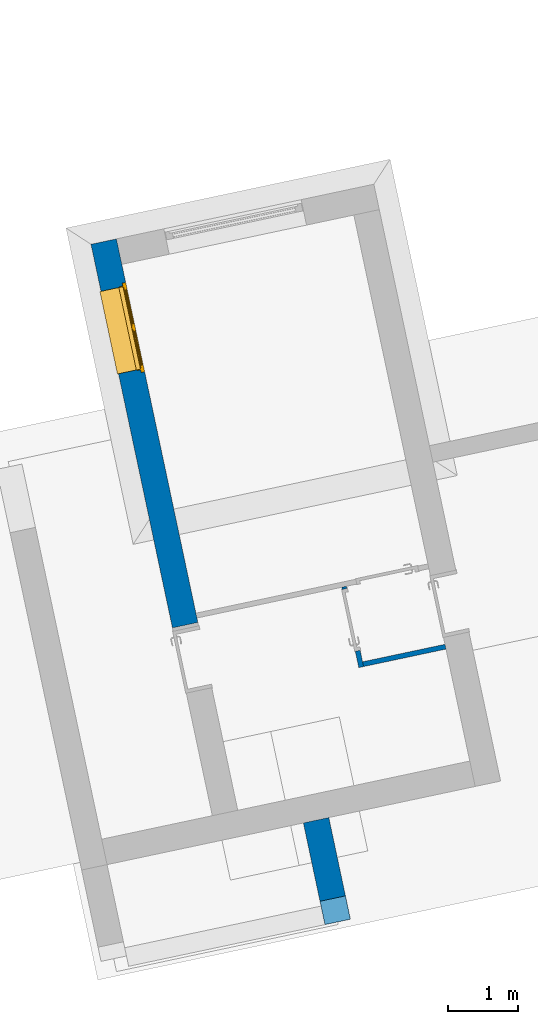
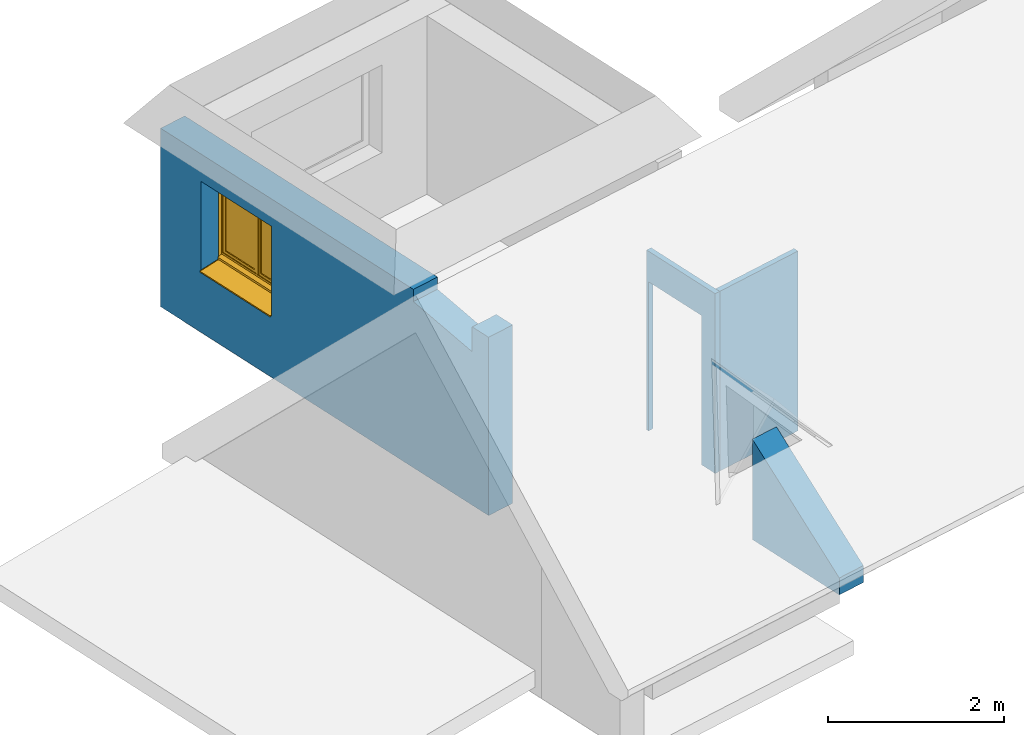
# One storey, part 4 of 10: 4 walls, 1 window, 2 openings.
"""IFC2X3 building model written with IfcOpenShell, lengths in centimetres."""

from ifc_helpers import new_model, entity, si_unit, converted_unit, derived_unit, direction, frame, frame_2d, origin, place, context, subcontext, project, spatial, polyline, rectangle, extrude, clip, halfspace, bounded_halfspace, faceted_brep, source, transform, mapped, material, material_list, layer, layer_set, layer_usage, type_object, type_shapes, element, fill, save


model = new_model("IFC2X3")

# Units and contexts
model_context = context("Model", 3, precision=0.001, world=origin(), true_north=direction((6.12303176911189e-17, 1.0)))
body_context = subcontext(model_context, "Body", "Model", "MODEL_VIEW")
ifc_project = project(units=[si_unit("LENGTHUNIT", "METRE", prefix="CENTI"), si_unit("AREAUNIT", "SQUARE_METRE"), si_unit("VOLUMEUNIT", "CUBIC_METRE"), converted_unit("PLANEANGLEUNIT", "DEGREE", entity("IfcRatioMeasure", 0.0174532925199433), si_unit("PLANEANGLEUNIT", "RADIAN"), dimensions=[0, 0, 0, 0, 0, 0, 0]), si_unit("MASSUNIT", "GRAM", prefix="KILO"), derived_unit("MASSDENSITYUNIT", [(si_unit("MASSUNIT", "GRAM", prefix="KILO"), 1), (si_unit("LENGTHUNIT", "METRE"), -3)]), derived_unit("IONCONCENTRATIONUNIT", [(si_unit("MASSUNIT", "GRAM", prefix="KILO"), 1), (si_unit("LENGTHUNIT", "METRE"), -3)]), derived_unit("MOMENTOFINERTIAUNIT", [(si_unit("LENGTHUNIT", "METRE"), 4)]), si_unit("TIMEUNIT", "SECOND"), si_unit("FREQUENCYUNIT", "HERTZ"), si_unit("THERMODYNAMICTEMPERATUREUNIT", "DEGREE_CELSIUS"), derived_unit("THERMALTRANSMITTANCEUNIT", [(si_unit("MASSUNIT", "GRAM", prefix="KILO"), 1), (si_unit("THERMODYNAMICTEMPERATUREUNIT", "KELVIN"), -1), (si_unit("TIMEUNIT", "SECOND"), -3)]), derived_unit("THERMALCONDUCTANCEUNIT", [(si_unit("MASSUNIT", "GRAM", prefix="KILO"), 1), (si_unit("THERMODYNAMICTEMPERATUREUNIT", "KELVIN"), -1), (si_unit("TIMEUNIT", "SECOND"), -3), (si_unit("LENGTHUNIT", "METRE"), 1)]), derived_unit("VOLUMETRICFLOWRATEUNIT", [(si_unit("LENGTHUNIT", "METRE"), 3), (si_unit("TIMEUNIT", "SECOND"), -1)]), derived_unit("MASSFLOWRATEUNIT", [(si_unit("MASSUNIT", "GRAM", prefix="KILO"), 1), (si_unit("TIMEUNIT", "SECOND"), -1)]), derived_unit("ROTATIONALFREQUENCYUNIT", [(si_unit("TIMEUNIT", "SECOND"), -1)]), si_unit("ELECTRICCURRENTUNIT", "AMPERE"), si_unit("ELECTRICVOLTAGEUNIT", "VOLT"), si_unit("POWERUNIT", "WATT"), si_unit("FORCEUNIT", "NEWTON", prefix="KILO"), si_unit("ILLUMINANCEUNIT", "LUX"), si_unit("LUMINOUSFLUXUNIT", "LUMEN"), si_unit("LUMINOUSINTENSITYUNIT", "CANDELA"), derived_unit("USERDEFINED", [(si_unit("MASSUNIT", "GRAM", prefix="KILO"), -1), (si_unit("LENGTHUNIT", "METRE"), -2), (si_unit("TIMEUNIT", "SECOND"), 3), (si_unit("LUMINOUSFLUXUNIT", "LUMEN"), 1)]), derived_unit("USERDEFINED", [(si_unit("MASSUNIT", "GRAM", prefix="KILO"), 1), (si_unit("TIMEUNIT", "SECOND"), -3), (si_unit("LENGTHUNIT", "METRE"), 3), (si_unit("ELECTRICCURRENTUNIT", "AMPERE"), -2)]), derived_unit("SOUNDPOWERUNIT", [(si_unit("MASSUNIT", "GRAM", prefix="KILO"), 1), (si_unit("TIMEUNIT", "SECOND"), -3), (si_unit("LENGTHUNIT", "METRE"), 2)]), derived_unit("SOUNDPRESSUREUNIT", [(si_unit("MASSUNIT", "GRAM", prefix="KILO"), 1), (si_unit("LENGTHUNIT", "METRE"), -1), (si_unit("TIMEUNIT", "SECOND"), -2)]), derived_unit("LINEARVELOCITYUNIT", [(si_unit("LENGTHUNIT", "METRE"), 1), (si_unit("TIMEUNIT", "SECOND"), -1)]), si_unit("PRESSUREUNIT", "PASCAL"), derived_unit("USERDEFINED", [(si_unit("MASSUNIT", "GRAM", prefix="KILO"), 1), (si_unit("LENGTHUNIT", "METRE"), -2), (si_unit("TIMEUNIT", "SECOND"), -2)]), derived_unit("LINEARFORCEUNIT", [(si_unit("MASSUNIT", "GRAM", prefix="KILO"), 1), (si_unit("TIMEUNIT", "SECOND"), -2)]), derived_unit("PLANARFORCEUNIT", [(si_unit("MASSUNIT", "GRAM", prefix="KILO"), 1), (si_unit("LENGTHUNIT", "METRE"), -1), (si_unit("TIMEUNIT", "SECOND"), -2)]), derived_unit("SPECIFICHEATCAPACITYUNIT", [(si_unit("THERMODYNAMICTEMPERATUREUNIT", "KELVIN"), -1), (si_unit("LENGTHUNIT", "METRE"), 2), (si_unit("TIMEUNIT", "SECOND"), -2)]), derived_unit("HEATINGVALUEUNIT", [(si_unit("LENGTHUNIT", "METRE"), 2), (si_unit("TIMEUNIT", "SECOND"), -2)]), derived_unit("VAPORPERMEABILITYUNIT", [(si_unit("LENGTHUNIT", "METRE"), -1), (si_unit("TIMEUNIT", "SECOND"), 1)]), derived_unit("DYNAMICVISCOSITYUNIT", [(si_unit("MASSUNIT", "GRAM", prefix="KILO"), 1), (si_unit("TIMEUNIT", "SECOND"), -1), (si_unit("LENGTHUNIT", "METRE"), -1)]), derived_unit("THERMALEXPANSIONCOEFFICIENTUNIT", [(si_unit("THERMODYNAMICTEMPERATUREUNIT", "KELVIN"), -1)]), derived_unit("MODULUSOFELASTICITYUNIT", [(si_unit("MASSUNIT", "GRAM", prefix="KILO"), 1), (si_unit("LENGTHUNIT", "METRE"), -1), (si_unit("TIMEUNIT", "SECOND"), -2)]), derived_unit("ISOTHERMALMOISTURECAPACITYUNIT", [(si_unit("LENGTHUNIT", "METRE"), 3), (si_unit("MASSUNIT", "GRAM", prefix="KILO"), -1)]), derived_unit("MOISTUREDIFFUSIVITYUNIT", [(si_unit("TIMEUNIT", "SECOND"), -1), (si_unit("LENGTHUNIT", "METRE"), 2)])], contexts=[model_context])

# Site, building, storey
site_placement = place(None, frame((14083.8920177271, -6853.25409548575, 6900.0), z_axis=(0.0, 0.0, 1.0), x_axis=(0.978188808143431, 0.207717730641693, 0.0)))
site = spatial("IfcSite", under=ifc_project, at=site_placement, Name="Surface", CompositionType="ELEMENT")
building_placement = place(site_placement, origin())
building = spatial("IfcBuilding", under=site, at=building_placement, CompositionType="ELEMENT")
storey_placement = place(building_placement, frame((0.0, 0.0, 289.0)))
storey = spatial("IfcBuildingStorey", under=building, at=storey_placement, Name="_R+1", CompositionType="ELEMENT", Elevation=289.0)

# Wall, opening, window
ifc_material_1 = material(Name="__ ENDUIT_Blanc")
ifc_layer_1 = layer(ifc_material_1, 2.0)
ifc_material_2 = material(Name="__ BETON_parpaings")
ifc_layer_2 = layer(ifc_material_2, 20.0)
ifc_material_3 = material(Name="__ ISOLANT (pat 1)")
ifc_layer_3 = layer(ifc_material_3, 13.0)
ifc_layer_4 = layer(ifc_material_1, 2.0)
ifc_layer_set_1 = layer_set([ifc_layer_1, ifc_layer_2, ifc_layer_3, ifc_layer_4], Name="Mur de base:*BRIQUE 37 (20 +INT 13+2 + EXT 2) (Iso+BA13)(enduit)")
ifc_layer_usage_1 = layer_usage(ifc_layer_set_1, "AXIS2", "NEGATIVE", 18.5)
wall_type_1 = type_object("IfcWallType", Name="Mur de base:*BRIQUE 37 (20 +INT 13+2 + EXT 2) (Iso+BA13)(enduit)", PredefinedType="STANDARD", material=ifc_layer_set_1)
wall_1_placement = place(storey_placement, frame((-7520.29714756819, 15156.1673447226, 0.0), z_axis=(0.0, 0.0, 1.0), x_axis=(0.0, 1.0, 0.0)))
wall_1 = element("IfcWallStandardCase", 1, at=wall_1_placement, inside=storey, type_object=wall_type_1, material=ifc_layer_usage_1, Name="Mur de base:*BRIQUE 37 (20 +INT 13+2 + EXT 2) (Iso+BA13)(enduit)", ObjectType="Mur de base:*BRIQUE 37 (20 +INT 13+2 + EXT 2) (Iso+BA13)(enduit)", context=body_context, shape_type="Clipping", body=[
    clip(extrude(rectangle(XDim=558.500000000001, YDim=37.0000000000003, at=frame_2d((279.250000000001, 1.77635683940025e-14), x_axis=(-1.0, 0.0))), origin(), (0.0, 0.0, 1.0), 247.999999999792), bounded_halfspace(frame((28.0, -18.4999999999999, 213.367301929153), z_axis=(-0.173648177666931, 0.0, 0.984807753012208), x_axis=(0.0, -1.0, 0.0)), False, frame((28.0, -18.4999999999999, 213.367301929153)), polyline([(0.0, 0.0), (100.0, 0.0), (100.0, 37.0), (0.0, 37.0), (0.0, 0.0)]))),
])
opening_1_placement = place(wall_1_placement, frame((365.0, 50.0, 82.1411937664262), z_axis=(0.0, 0.0, 1.0), x_axis=(0.0, -1.0, 0.0)))
opening_1 = element("IfcOpeningElement", 2, at=opening_1_placement, cuts=wall_1, Name="Mur de base:*BRIQUE 37 (20 +INT 13+2 + EXT 2) (Iso+BA13)(enduit)", ObjectType="Opening", context=body_context, shape_type="Brep", body=[
    faceted_brep([(60.5000000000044, 5.0, 7.85880623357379), (58.4999999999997, 5.0, 7.85880623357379), (58.4999999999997, 5.0, 127.858806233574), (0.0, 5.0, 127.858806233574), (0.0, 5.0, 0.0), (60.5000000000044, 5.0, 6.35880623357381), (100.0, 125.0, 7.85880623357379), (68.5, 125.0, 7.85880623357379), (68.5, 125.0, 127.858806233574), (100.0, 125.0, 127.858806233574), (100.0, 5.0, 7.85880623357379), (68.5, 5.0, 7.85880623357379), (68.5, 0.0, 7.85880623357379), (63.5000000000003, 0.0, 7.85880623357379), (63.5000000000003, 4.0, 7.85880623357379), (58.4999999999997, 4.0, 7.85880623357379), (60.5000000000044, 125.0, 7.85880623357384), (58.4999999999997, 125.0, 7.85880623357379), (58.4999999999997, 126.0, 7.85880623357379), (63.5000000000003, 126.0, 7.85880623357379), (63.5000000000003, 130.0, 7.85880623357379), (68.5, 130.0, 7.85880623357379), (100.0, 5.0, 127.858806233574), (58.4999999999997, 125.0, 127.858806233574), (0.0, 125.0, 127.858806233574), (0.0, 125.0, 0.0), (60.5000000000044, 125.0, 6.35880623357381), (68.5, 0.0, 132.858806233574), (63.5000000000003, 0.0, 132.858806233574), (63.5000000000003, 130.0, 132.858806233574), (63.5000000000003, 126.0, 128.858806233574), (63.5000000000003, 4.0, 128.858806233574), (58.4999999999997, 4.0, 128.858806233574), (58.4999999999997, 126.0, 128.858806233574), (68.5, 5.0, 127.858806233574), (68.5, 130.0, 132.858806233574)], [[[0, 1, 2, 3, 4, 5]], [[6, 7, 8, 9]], [[10, 11, 12, 13, 14, 15, 1, 0, 16, 17, 18, 19, 20, 21, 7, 6]], [[10, 6, 9, 22]], [[3, 2, 23, 24]], [[3, 24, 25, 4]], [[4, 25, 26, 5]], [[5, 26, 16, 0]], [[12, 27, 28, 13]], [[13, 28, 29, 20, 19, 30, 31, 14]], [[14, 31, 32, 15]], [[15, 32, 33, 18, 17, 23, 2, 1]], [[11, 34, 8, 7, 21, 35, 27, 12]], [[27, 35, 29, 28]], [[30, 33, 32, 31]], [[29, 35, 21, 20]], [[19, 18, 33, 30]], [[9, 8, 34, 22]], [[24, 23, 17, 16, 26, 25]], [[22, 34, 11, 10]]]),
])
ifc_material_4 = material(Name="Fenêtre - Poignée")
ifc_material_5 = material(Name="Fenêtre - Appui")
ifc_material_6 = material(Name="Fenêtre - Cadre")
ifc_material_7 = material(Name="Fenêtre - Vitrage")
ifc_material_list = material_list([ifc_material_4, ifc_material_5, ifc_material_6, ifc_material_7])
window_style = type_object("IfcWindowStyle", Name="2 Vantaux - Droits:120x120", ConstructionType="NOTDEFINED", OperationType="DOUBLE_PANEL_VERTICAL", ParameterTakesPrecedence=False, Sizeable=False, material=ifc_material_list)
shared_shape = source(origin(), body_context, "Body", "Brep", [
    faceted_brep([(68.0646009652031, -69.100000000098, 70.0621991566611), (68.2033929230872, -69.100000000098, 69.9234071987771), (68.2033929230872, -69.100000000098, 68.7920363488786), (68.0667698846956, -69.100000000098, 68.655413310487), (66.9332301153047, -69.100000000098, 68.655413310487), (66.7966070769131, -69.100000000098, 68.7920363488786), (66.7966070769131, -69.100000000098, 69.9234071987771), (66.9353990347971, -69.100000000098, 70.0621991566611), (68.0646009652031, -70.3913548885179, 70.0621991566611), (68.2033929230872, -70.333865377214, 69.9234071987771), (68.2033929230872, -71.664600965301, 68.5926716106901), (68.2033929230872, -71.664600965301, 59.8588062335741), (68.2033929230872, -70.5332301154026, 59.8588062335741), (68.2033929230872, -70.5332301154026, 68.1240424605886), (68.2033929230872, -69.8652362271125, 68.7920363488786), (68.0667698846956, -69.8086451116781, 68.655413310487), (66.9332301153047, -69.8086451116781, 68.655413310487), (66.7966070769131, -69.8652362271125, 68.7920363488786), (66.7966070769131, -70.5332301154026, 68.1240424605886), (66.7966070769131, -70.5332301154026, 59.8588062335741), (66.7966070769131, -71.664600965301, 59.8588062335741), (66.7966070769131, -71.664600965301, 68.5926716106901), (66.7966070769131, -70.333865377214, 69.9234071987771), (66.9353990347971, -70.3913548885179, 70.0621991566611), (68.0646009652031, -71.8033929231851, 68.650161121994), (68.0667698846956, -70.396607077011, 68.0674513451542), (66.9332301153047, -70.396607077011, 68.0674513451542), (66.9353990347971, -71.803392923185, 68.650161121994), (68.0646009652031, -71.8033929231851, 59.8588062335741), (66.9353990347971, -71.8033929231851, 59.8588062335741), (66.9332301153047, -70.396607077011, 59.8588062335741), (68.0667698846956, -70.396607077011, 59.8588062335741)], [[[0, 1, 2, 3, 4, 5, 6, 7]], [[1, 0, 8, 9]], [[2, 1, 9, 10, 11, 12, 13, 14]], [[3, 2, 14, 15]], [[4, 3, 15, 16]], [[5, 4, 16, 17]], [[6, 5, 17, 18, 19, 20, 21, 22]], [[7, 6, 22, 23]], [[0, 7, 23, 8]], [[9, 8, 24, 10]], [[15, 14, 13, 25]], [[16, 15, 25, 26]], [[17, 16, 26, 18]], [[23, 22, 21, 27]], [[8, 23, 27, 24]], [[28, 29, 20, 19, 30, 31, 12, 11]], [[10, 24, 28, 11]], [[25, 13, 12, 31]], [[26, 25, 31, 30]], [[18, 26, 30, 19]], [[27, 21, 20, 29]], [[24, 27, 29, 28]]]),
    faceted_brep([(68.2000000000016, -69.1000000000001, 71.8588062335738), (66.8, -69.1000000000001, 71.8588062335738), (66.3, -69.1000000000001, 71.3588062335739), (66.3, -69.1000000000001, 64.3588062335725), (66.7999999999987, -69.1000000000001, 63.8588062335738), (68.2000000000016, -69.1000000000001, 63.8588062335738), (68.7000000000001, -69.1000000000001, 64.3588062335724), (68.7000000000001, -69.1000000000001, 71.3588062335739), (68.2000000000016, -68.5000000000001, 71.8588062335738), (68.7000000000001, -68.5000000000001, 71.3588062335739), (68.7000000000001, -68.5000000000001, 64.3588062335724), (68.2000000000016, -68.5000000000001, 63.8588062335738), (66.7999999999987, -68.5000000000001, 63.8588062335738), (66.3, -68.5000000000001, 64.3588062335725), (66.3, -68.5000000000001, 71.3588062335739), (66.8, -68.5000000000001, 71.8588062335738)], [[[0, 1, 2, 3, 4, 5, 6, 7]], [[8, 9, 10, 11, 12, 13, 14, 15]], [[1, 0, 8, 15]], [[2, 1, 15, 14]], [[3, 2, 14, 13]], [[4, 3, 13, 12]], [[5, 4, 12, 11]], [[6, 5, 11, 10]], [[7, 6, 10, 9]], [[0, 7, 9, 8]]]),
    faceted_brep([(125.0, -30.0, 3.67864823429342), (125.0, -60.0, 6.83177529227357), (125.0, -60.0, 7.85880623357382), (125.0, -60.4999999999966, 7.85880623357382), (125.0, -60.4999999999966, 6.35880623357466), (125.0, -30.4999999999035, 3.2056791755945), (125.0, -30.4999999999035, 2.17562870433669), (125.0, -30.0, 2.12307658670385), (5.0, -30.0, 3.67864823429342), (5.0, -30.0, 2.12307658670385), (5.0, -30.4999999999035, 2.17562870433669), (5.0, -30.4999999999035, 3.2056791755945), (5.0, -60.4999999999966, 6.35880623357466), (5.0, -60.4999999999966, 7.85880623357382), (5.0, -60.0, 7.85880623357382), (5.0, -60.0, 6.83177529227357)], [[[0, 1, 2, 3, 4, 5, 6, 7]], [[8, 9, 10, 11, 12, 13, 14, 15]], [[1, 0, 8, 15]], [[2, 1, 15, 14]], [[3, 2, 14, 13]], [[4, 3, 13, 12]], [[5, 4, 12, 11]], [[6, 5, 11, 10]], [[7, 6, 10, 9]], [[0, 7, 9, 8]]]),
    faceted_brep([(5.0, -30.0, 3.82124075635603), (5.0, -30.0, 3.67864823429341), (5.0, -60.0, 6.83177529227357), (5.0, -60.0, 7.33452943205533), (5.0, -30.3581886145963, 4.21904951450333), (5.0, -30.1027420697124, 4.08889299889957), (5.49999999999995, -60.0, 7.33452943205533), (5.49999999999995, -60.0, 6.83177529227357), (5.5, -30.0, 3.67864823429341), (5.5, -30.0, 3.82124075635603), (5.5, -30.1027420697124, 4.08889299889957), (5.5, -30.3581886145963, 4.21904951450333)], [[[0, 1, 2, 3, 4, 5]], [[6, 7, 8, 9, 10, 11]], [[2, 1, 8, 7]], [[3, 2, 7, 6]], [[4, 3, 6, 11]], [[4, 11, 10, 5]], [[10, 9, 0, 5]], [[1, 0, 9, 8]]]),
    faceted_brep([(124.5, -30.0, 3.82124075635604), (124.5, -30.0, 3.67864823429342), (124.5, -60.0, 6.83177529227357), (124.5, -60.0, 7.33452943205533), (124.5, -30.3581886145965, 4.21904951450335), (124.5, -30.1027420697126, 4.08889299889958), (125.0, -60.0, 7.33452943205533), (125.0, -60.0, 6.83177529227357), (125.0, -30.0, 3.67864823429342), (125.0, -30.0, 3.82124075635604), (125.0, -30.1027420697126, 4.08889299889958), (125.0, -30.3581886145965, 4.21904951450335)], [[[0, 1, 2, 3, 4, 5]], [[6, 7, 8, 9, 10, 11]], [[2, 1, 8, 7]], [[3, 2, 7, 6]], [[4, 3, 6, 11]], [[4, 11, 10, 5]], [[10, 9, 0, 5]], [[1, 0, 9, 8]]]),
    faceted_brep([(65.0, -64.4999999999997, 127.858806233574), (65.0, -68.499999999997, 127.858806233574), (65.0, -68.499999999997, 12.8588062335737), (65.0, -64.4999999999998, 12.8588062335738), (5.0, -68.4999999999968, 12.8588062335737), (5.0, -64.4999999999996, 12.8588062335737), (5.0, -68.4999999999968, 127.858806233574), (10.0, -68.4999999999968, 17.8588062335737), (10.0, -68.4999999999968, 122.858806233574), (60.0, -68.499999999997, 122.858806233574), (60.0, -68.499999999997, 17.8588062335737), (5.0, -64.4999999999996, 127.858806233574), (60.0, -64.4999999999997, 17.8588062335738), (60.0, -64.4999999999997, 122.858806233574), (10.0, -64.4999999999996, 122.858806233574), (10.0, -64.4999999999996, 17.8588062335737)], [[[0, 1, 2, 3]], [[3, 2, 4, 5]], [[2, 1, 6, 4], [7, 8, 9, 10]], [[5, 4, 6, 11]], [[5, 11, 0, 3], [12, 13, 14, 15]], [[9, 13, 12, 10]], [[10, 12, 15, 7]], [[7, 15, 14, 8]], [[11, 6, 1, 0]], [[8, 14, 13, 9]]]),
    faceted_brep([(70.0, -65.9000000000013, 17.8588062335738), (70.0, -65.9000000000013, 122.858806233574), (120.0, -65.9000000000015, 122.858806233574), (120.0, -65.9000000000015, 17.8588062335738), (70.0, -67.1000000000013, 17.8588062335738), (70.0, -67.1000000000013, 122.858806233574), (120.0, -67.1000000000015, 122.858806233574), (120.0, -67.1000000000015, 17.8588062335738)], [[[0, 1, 2, 3]], [[1, 0, 4, 5]], [[3, 2, 6, 7]], [[0, 3, 7, 4]], [[2, 1, 5, 6]], [[4, 7, 6, 5]]]),
    faceted_brep([(60.0, -65.9000000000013, 17.8588062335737), (60.0, -65.9000000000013, 122.858806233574), (60.0, -67.1000000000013, 122.858806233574), (60.0, -67.1000000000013, 17.8588062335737), (10.0, -65.9000000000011, 17.8588062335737), (10.0, -67.1000000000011, 17.8588062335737), (10.0, -65.9000000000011, 122.858806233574), (10.0, -67.1000000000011, 122.858806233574)], [[[0, 1, 2, 3]], [[4, 0, 3, 5]], [[6, 4, 5, 7]], [[7, 5, 3, 2]], [[1, 6, 7, 2]], [[6, 1, 0, 4]]]),
    faceted_brep([(70.0, -64.5000000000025, 122.858806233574), (70.0, -68.5000000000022, 122.858806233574), (70.0, -68.5000000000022, 17.8588062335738), (70.0, -64.5000000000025, 17.8588062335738), (120.0, -68.5000000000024, 17.8588062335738), (120.0, -64.5000000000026, 17.8588062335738), (120.0, -68.5000000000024, 122.858806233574), (125.0, -68.5000000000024, 12.8588062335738), (125.0, -68.5000000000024, 127.858806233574), (65.0, -68.5000000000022, 127.858806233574), (65.0, -68.5000000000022, 12.8588062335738), (120.0, -64.5000000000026, 122.858806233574), (65.0, -64.5000000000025, 12.8588062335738), (65.0, -64.5000000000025, 127.858806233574), (125.0, -64.5000000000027, 127.858806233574), (125.0, -64.5000000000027, 12.8588062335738)], [[[0, 1, 2, 3]], [[3, 2, 4, 5]], [[2, 1, 6, 4], [7, 8, 9, 10]], [[5, 4, 6, 11]], [[5, 11, 0, 3], [12, 13, 14, 15]], [[9, 13, 12, 10]], [[10, 12, 15, 7]], [[7, 15, 14, 8]], [[11, 6, 1, 0]], [[8, 14, 13, 9]]], outer=[[True], [True], [False, True], [True], [False, True], [True], [True], [True], [True], [True]]),
    faceted_brep([(0.0, -68.5000000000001, 7.85880623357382), (0.0, -63.5000000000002, 7.85880623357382), (5.0, -63.5000000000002, 7.85880623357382), (5.0, -58.5000000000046, 7.85880623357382), (125.0, -58.5000000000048, 7.85880623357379), (125.0, -63.5000000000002, 7.85880623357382), (130.0, -63.5000000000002, 7.85880623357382), (130.0, -68.5000000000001, 7.85880623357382), (0.0, -68.5000000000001, 132.858806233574), (0.0, -63.5000000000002, 132.858806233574), (130.0, -63.5000000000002, 132.858806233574), (125.0, -63.5000000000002, 11.7964204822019), (5.0, -63.5000000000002, 11.7964204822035), (6.49999999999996, -63.5000000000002, 126.358806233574), (6.49999999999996, -63.5000000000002, 14.3588062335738), (123.5, -63.5000000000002, 14.3588062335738), (123.5, -63.5000000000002, 126.358806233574), (5.0, -57.5000000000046, 10.1887253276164), (5.0, -57.5000000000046, 7.35880623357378), (5.0, -58.5000000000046, 7.35880623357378), (125.0, -58.5000000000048, 7.35880623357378), (125.0, -57.5000000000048, 7.35880623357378), (125.0, -57.5000000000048, 10.1887253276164), (130.0, -68.5000000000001, 132.858806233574), (125.0, -68.5000000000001, 127.858806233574), (125.0, -68.5000000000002, 12.8588062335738), (5.0, -68.5000000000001, 12.8588062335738), (5.0, -68.5000000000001, 127.858806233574), (6.49999999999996, -64.5000000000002, 126.358806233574), (6.49999999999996, -64.5000000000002, 14.3588062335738), (123.5, -64.5000000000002, 14.3588062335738), (123.5, -64.5000000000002, 126.358806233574), (125.0, -64.5000000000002, 127.858806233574), (5.0, -64.5000000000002, 127.858806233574), (5.0, -64.5000000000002, 12.8588062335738), (125.0, -64.5000000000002, 12.8588062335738)], [[[0, 1, 2, 3, 4, 5, 6, 7]], [[1, 0, 8, 9]], [[1, 9, 10, 6, 5, 11, 12, 2], [13, 14, 15, 16]], [[12, 17, 18, 19, 3, 2]], [[3, 19, 20, 4]], [[4, 20, 21, 22, 11, 5]], [[6, 10, 23, 7]], [[0, 7, 23, 8], [24, 25, 26, 27]], [[13, 28, 29, 14]], [[29, 30, 15, 14]], [[31, 16, 15, 30]], [[17, 12, 11, 22]], [[32, 33, 34, 35], [28, 31, 30, 29]], [[34, 33, 27, 26]], [[26, 25, 35, 34]], [[24, 32, 35, 25]], [[18, 17, 22, 21]], [[19, 18, 21, 20]], [[13, 16, 31, 28]], [[33, 32, 24, 27]], [[10, 9, 8, 23]]]),
    faceted_brep([(5.0, -58.5, 7.85880623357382), (5.0, -63.5000000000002, 7.85880623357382), (4.0, -63.5000000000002, 7.85880623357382), (4.0, -58.5, 7.85880623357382), (5.0, -58.5, 127.858806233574), (5.0, -63.5000000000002, 127.858806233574), (125.0, -63.5000000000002, 127.858806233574), (125.0, -63.5000000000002, 7.85880623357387), (126.0, -63.5000000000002, 7.85880623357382), (126.0, -63.5000000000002, 128.858806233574), (4.0, -63.5000000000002, 128.858806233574), (4.0, -58.5, 128.858806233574), (126.0, -58.5, 128.858806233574), (126.0, -58.5, 7.85880623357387), (125.0, -58.5, 7.85880623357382), (125.0, -58.5, 127.858806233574)], [[[0, 1, 2, 3]], [[1, 0, 4, 5]], [[2, 1, 5, 6, 7, 8, 9, 10]], [[3, 2, 10, 11]], [[0, 3, 11, 12, 13, 14, 15, 4]], [[6, 15, 14, 7]], [[14, 13, 8, 7]], [[12, 9, 8, 13]], [[5, 4, 15, 6]], [[11, 10, 9, 12]]]),
    faceted_brep([(67.0, -63.7000000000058, 126.358806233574), (63.0, -63.7000000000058, 126.358806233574), (63.0, -64.5000000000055, 126.358806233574), (67.0, -64.5000000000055, 126.358806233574), (67.0, -63.7000000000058, 14.3588062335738), (67.0, -64.5000000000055, 14.3588062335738), (63.0, -64.5000000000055, 14.3588062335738), (63.0, -63.7000000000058, 14.3588062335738)], [[[0, 1, 2, 3]], [[4, 5, 6, 7]], [[1, 0, 4, 7]], [[2, 1, 7, 6]], [[3, 2, 6, 5]], [[0, 3, 5, 4]]]),
])
type_shapes(window_style, [shared_shape])
window_placement = place(opening_1_placement, frame((0.0, 0.0, 0.0), z_axis=(0.0, 0.0, 1.0), x_axis=(0.0, 1.0, 0.0)))
window = element("IfcWindow", 3, at=window_placement, inside=storey, type_object=window_style, material=ifc_material_list, Name="2 Vantaux - Droits:120x120", ObjectType="2 Vantaux - Droits:120x120", OverallHeight=205.0, OverallWidth=130.0, context=body_context, shape_type="MappedRepresentation", body=[
    mapped(shared_shape, transform((0.0, 0.0, 0.0), scale=1.0)),
])
fill(opening_1, window)

# Wall
ifc_layer_usage_2 = layer_usage(ifc_layer_set_1, "AXIS2", "POSITIVE", -18.5)
wall_2_placement = place(storey_placement, frame((-7395.59727892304, 14697.6324526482, 70.0), z_axis=(0.0, 0.0, 1.0), x_axis=(0.0, 1.0, 0.0)))
element("IfcWallStandardCase", 4, at=wall_2_placement, inside=storey, type_object=wall_type_1, material=ifc_layer_usage_2, Name="Mur de base:*BRIQUE 37 (20 +INT 13+2 + EXT 2) (Iso+BA13)(enduit)", ObjectType="Mur de base:*BRIQUE 37 (20 +INT 13+2 + EXT 2) (Iso+BA13)(enduit)", context=body_context, shape_type="Clipping", body=[
    clip(extrude(rectangle(XDim=148.040025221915, YDim=37.0000000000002, at=frame_2d((74.0200126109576, -3.14415160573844e-13), x_axis=(-1.0, 0.0))), origin(), (0.0, 0.0, 1.0), 139.621407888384), halfspace(frame((0.0, -18.4999999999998, 23.5419508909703), z_axis=(-0.617039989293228, 0.0, 0.786931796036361), x_axis=(0.0, 1.0, 0.0)), False)),
])

# Wall, opening
ifc_material_8 = material(Name="__ BA 13")
ifc_layer_5 = layer(ifc_material_8, 7.0)
ifc_layer_set_2 = layer_set([ifc_layer_5], Name="Mur de base:*Cloison 72/48 cm")
ifc_layer_usage_3 = layer_usage(ifc_layer_set_2, "AXIS2", "NEGATIVE", 3.5)
wall_type_2 = type_object("IfcWallType", Name="Mur de base:*Cloison 72/48 cm", PredefinedType="STANDARD", material=ifc_layer_set_2)
wall_3_placement = place(storey_placement, frame((-7287.4551432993, 15162.6724778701, 0.0), z_axis=(0.0, 0.0, 1.0), x_axis=(0.0, -1.0, 0.0)))
wall_3 = element("IfcWallStandardCase", 5, at=wall_3_placement, inside=storey, type_object=wall_type_2, material=ifc_layer_usage_3, Name="Mur de base:*Cloison 72/48 cm", ObjectType="Mur de base:*Cloison 72/48 cm", context=body_context, shape_type="SweptSolid", body=[
    extrude(rectangle(XDim=116.999999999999, YDim=7.00000000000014, at=frame_2d((58.4999999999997, 0.0), x_axis=(1.0, 0.0))), origin(), (0.0, 0.0, 1.0), 250.0),
])
opening_2_placement = place(wall_3_placement, frame((93.2499999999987, 3.5, 0.0)))
element("IfcOpeningElement", 6, at=opening_2_placement, cuts=wall_3, Name="*Porte_alveolaire:Pp 83 x 204:1", ObjectType="Opening", context=body_context, shape_type="SweptSolid", body=[
    extrude(rectangle(XDim=207.5, YDim=89.9999999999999, at=frame_2d((103.75, 45.0), x_axis=(1.0, 0.0))), frame((0.0, 0.0, 0.0), z_axis=(0.0, -1.0, 0.0), x_axis=(0.0, 0.0, 1.0)), (0.0, 0.0, 1.0), 7.0),
])

# Wall
wall_4_placement = place(storey_placement, frame((-7283.9551432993, 15049.1724778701, 0.0)))
element("IfcWallStandardCase", 7, at=wall_4_placement, inside=storey, type_object=wall_type_2, material=ifc_layer_usage_3, Name="Mur de base:*Cloison 72/48 cm", ObjectType="Mur de base:*Cloison 72/48 cm", context=body_context, shape_type="SweptSolid", body=[
    extrude(rectangle(XDim=120.0, YDim=6.99999999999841, at=frame_2d((60.0000000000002, 0.0), x_axis=(-1.0, 0.0))), origin(), (0.0, 0.0, 1.0), 250.0),
])

save(model, "model.ifc")
